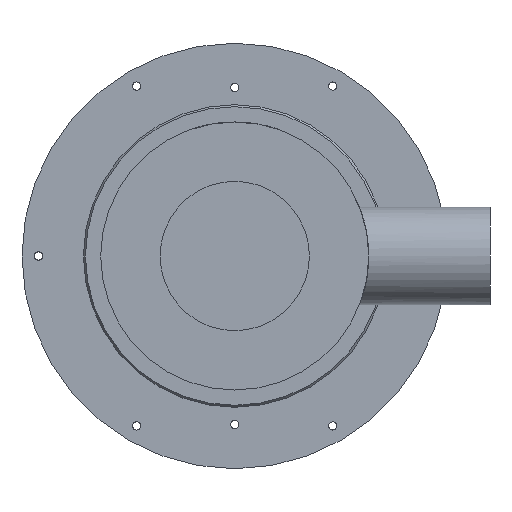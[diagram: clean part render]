
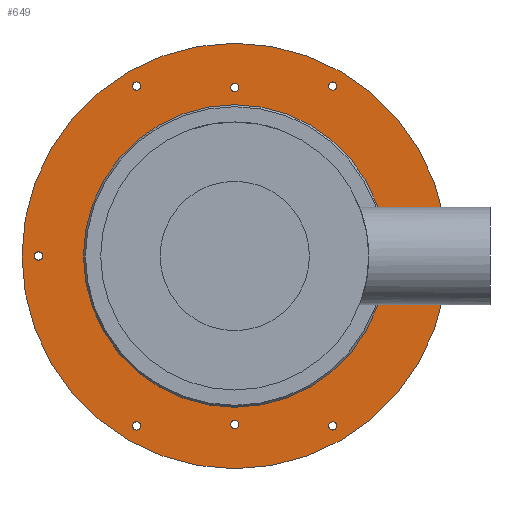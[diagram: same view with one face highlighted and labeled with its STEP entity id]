
A CAD part, front view. The second image highlights one B-rep face of the part: STEP entity #649.
In plain terms, the highlighted planar face has unit normal (0, -1, 0).
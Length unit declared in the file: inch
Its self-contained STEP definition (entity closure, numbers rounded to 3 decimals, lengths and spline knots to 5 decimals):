
#212=CARTESIAN_POINT('',(4.12008,1.1378,0.));
#213=VERTEX_POINT('',#212);
#214=CARTESIAN_POINT('',(4.03543,1.1378,0.));
#215=DIRECTION('',(0.0,1.0,0.0));
#216=DIRECTION('',(-1.0,0.0,0.0));
#217=AXIS2_PLACEMENT_3D('',#214,#215,#216);
#218=CIRCLE('',#217,0.08465);
#219=EDGE_CURVE('',#213,#213,#218,.T.);
#261=CARTESIAN_POINT('',(2.10236,1.1378,3.49478));
#262=VERTEX_POINT('',#261);
#263=CARTESIAN_POINT('',(2.01772,1.1378,3.49478));
#264=DIRECTION('',(0.0,1.0,0.0));
#265=DIRECTION('',(-1.0,0.0,0.0));
#266=AXIS2_PLACEMENT_3D('',#263,#264,#265);
#267=CIRCLE('',#266,0.08465);
#268=EDGE_CURVE('',#262,#262,#267,.T.);
#310=CARTESIAN_POINT('',(0.08465,1.1378,3.46457));
#311=VERTEX_POINT('',#310);
#312=CARTESIAN_POINT('',(0.,1.1378,3.46457));
#313=DIRECTION('',(0.0,1.0,0.0));
#314=DIRECTION('',(-1.0,0.0,0.0));
#315=AXIS2_PLACEMENT_3D('',#312,#313,#314);
#316=CIRCLE('',#315,0.08465);
#317=EDGE_CURVE('',#311,#311,#316,.T.);
#359=CARTESIAN_POINT('',(-1.93307,1.1378,3.49478));
#360=VERTEX_POINT('',#359);
#361=CARTESIAN_POINT('',(-2.01772,1.1378,3.49478));
#362=DIRECTION('',(0.0,1.0,0.0));
#363=DIRECTION('',(-1.0,0.0,0.0));
#364=AXIS2_PLACEMENT_3D('',#361,#362,#363);
#365=CIRCLE('',#364,0.08465);
#366=EDGE_CURVE('',#360,#360,#365,.T.);
#408=CARTESIAN_POINT('',(0.08465,1.1378,-3.46457));
#409=VERTEX_POINT('',#408);
#410=CARTESIAN_POINT('',(0.,1.1378,-3.46457));
#411=DIRECTION('',(0.0,1.0,0.0));
#412=DIRECTION('',(-1.0,0.0,0.0));
#413=AXIS2_PLACEMENT_3D('',#410,#411,#412);
#414=CIRCLE('',#413,0.08465);
#415=EDGE_CURVE('',#409,#409,#414,.T.);
#457=CARTESIAN_POINT('',(-1.93307,1.1378,-3.49478));
#458=VERTEX_POINT('',#457);
#459=CARTESIAN_POINT('',(-2.01772,1.1378,-3.49478));
#460=DIRECTION('',(0.0,1.0,0.0));
#461=DIRECTION('',(-1.0,0.0,0.0));
#462=AXIS2_PLACEMENT_3D('',#459,#460,#461);
#463=CIRCLE('',#462,0.08465);
#464=EDGE_CURVE('',#458,#458,#463,.T.);
#506=CARTESIAN_POINT('',(-3.95079,1.1378,0.));
#507=VERTEX_POINT('',#506);
#508=CARTESIAN_POINT('',(-4.03543,1.1378,0.));
#509=DIRECTION('',(0.0,1.0,0.0));
#510=DIRECTION('',(-1.0,0.0,0.0));
#511=AXIS2_PLACEMENT_3D('',#508,#509,#510);
#512=CIRCLE('',#511,0.08465);
#513=EDGE_CURVE('',#507,#507,#512,.T.);
#555=CARTESIAN_POINT('',(2.10236,1.1378,-3.49478));
#556=VERTEX_POINT('',#555);
#557=CARTESIAN_POINT('',(2.01772,1.1378,-3.49478));
#558=DIRECTION('',(0.0,1.0,0.0));
#559=DIRECTION('',(-1.0,0.0,0.0));
#560=AXIS2_PLACEMENT_3D('',#557,#558,#559);
#561=CIRCLE('',#560,0.08465);
#562=EDGE_CURVE('',#556,#556,#561,.T.);
#583=CARTESIAN_POINT('',(4.375,1.1378,0.));
#584=VERTEX_POINT('',#583);
#585=CARTESIAN_POINT('',(0.,1.1378,0.));
#586=DIRECTION('',(0.0,-1.0,0.0));
#587=DIRECTION('',(1.0,0.0,0.0));
#588=AXIS2_PLACEMENT_3D('',#585,#586,#587);
#589=CIRCLE('',#588,4.375);
#590=EDGE_CURVE('',#584,#584,#589,.T.);
#606=CARTESIAN_POINT('',(3.74301,1.1378,0.));
#607=DIRECTION('',(0.0,-1.0,0.0));
#608=DIRECTION('',(0.0,0.0,-1.0));
#609=AXIS2_PLACEMENT_3D('',#606,#607,#608);
#610=PLANE('',#609);
#611=ORIENTED_EDGE('',*,*,#590,.T.);
#612=EDGE_LOOP('',(#611));
#613=FACE_OUTER_BOUND('',#612,.T.);
#614=ORIENTED_EDGE('',*,*,#219,.T.);
#615=EDGE_LOOP('',(#614));
#616=FACE_BOUND('',#615,.T.);
#617=ORIENTED_EDGE('',*,*,#268,.T.);
#618=EDGE_LOOP('',(#617));
#619=FACE_BOUND('',#618,.T.);
#620=ORIENTED_EDGE('',*,*,#317,.T.);
#621=EDGE_LOOP('',(#620));
#622=FACE_BOUND('',#621,.T.);
#623=ORIENTED_EDGE('',*,*,#366,.T.);
#624=EDGE_LOOP('',(#623));
#625=FACE_BOUND('',#624,.T.);
#626=ORIENTED_EDGE('',*,*,#415,.T.);
#627=EDGE_LOOP('',(#626));
#628=FACE_BOUND('',#627,.T.);
#629=ORIENTED_EDGE('',*,*,#464,.T.);
#630=EDGE_LOOP('',(#629));
#631=FACE_BOUND('',#630,.T.);
#632=ORIENTED_EDGE('',*,*,#513,.T.);
#633=EDGE_LOOP('',(#632));
#634=FACE_BOUND('',#633,.T.);
#635=ORIENTED_EDGE('',*,*,#562,.T.);
#636=EDGE_LOOP('',(#635));
#637=FACE_BOUND('',#636,.T.);
#638=CARTESIAN_POINT('',(3.11103,1.1378,0.));
#639=VERTEX_POINT('',#638);
#640=CARTESIAN_POINT('',(0.,1.1378,0.));
#641=DIRECTION('',(0.0,-1.0,0.0));
#642=DIRECTION('',(1.0,0.0,0.0));
#643=AXIS2_PLACEMENT_3D('',#640,#641,#642);
#644=CIRCLE('',#643,3.11103);
#645=EDGE_CURVE('',#639,#639,#644,.T.);
#646=ORIENTED_EDGE('',*,*,#645,.F.);
#647=EDGE_LOOP('',(#646));
#648=FACE_BOUND('',#647,.T.);
#649=ADVANCED_FACE('',(#613,#616,#619,#622,#625,#628,#631,#634,#637,#648),#610,.T.);
